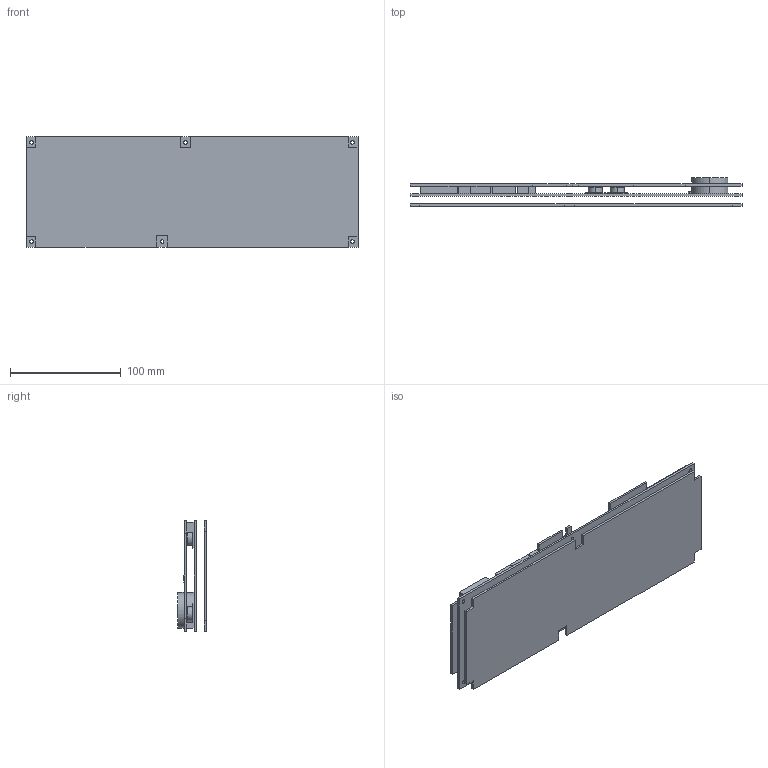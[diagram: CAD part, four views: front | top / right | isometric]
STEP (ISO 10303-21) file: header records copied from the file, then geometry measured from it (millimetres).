
FILE_DESCRIPTION (( 'STEP AP214' ), '1' );
FILE_NAME ('JK-PB2A16S15P-JK-PB2A16S20P-Main-Board-3D.STEP', '2024-03-08T04:18:48', ( '' ), ( '' ), 'SwSTEP 2.0', 'SolidWorks 2022', '' );
FILE_SCHEMA (( 'AUTOMOTIVE_DESIGN' ));
Length unit declared in the file: millimetre
Products named in the file (1): JK-PB2A16S15P-JK-PB2A16S20P-Main-Board-3D
Bounding box: 300.15 x 25.92 x 100.22 mm (x, y, z)
Volume: 188383.9 mm3; surface area: 181892.9 mm2
Topology: 37 solids, 37 shells, 523 faces, 1335 edges, 890 vertices
Faces by surface type: plane 302, bspline 193, cylinder 28
Entity records: 26513 total; most frequent: CARTESIAN_POINT 10358, ORIENTED_EDGE 2670, DIRECTION 1667, EDGE_CURVE 1335, LINE 893, VECTOR 893, VERTEX_POINT 890, EDGE_LOOP 557
